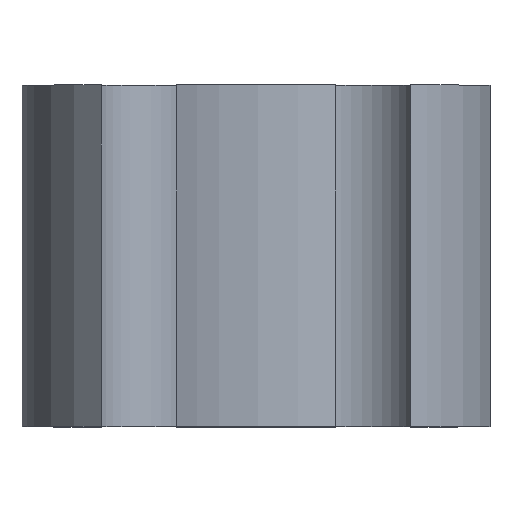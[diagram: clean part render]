
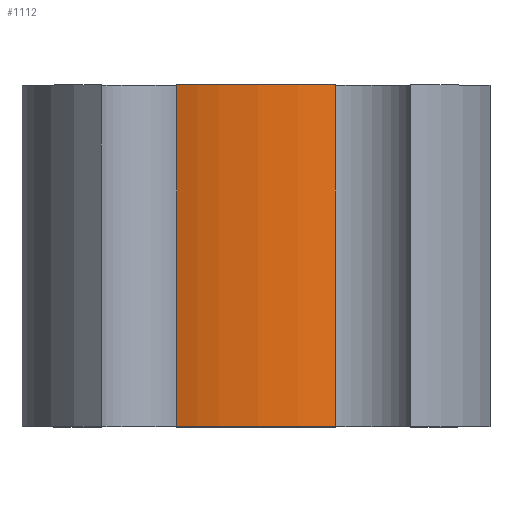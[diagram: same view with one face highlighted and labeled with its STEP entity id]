
A CAD part, top view. The second image highlights one B-rep face of the part: STEP entity #1112.
In plain terms, the highlighted free-form (B-spline) face has degree [2, 1] with [3, 2] control points.
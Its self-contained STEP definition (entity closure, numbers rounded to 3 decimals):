
#46 = B_SPLINE_SURFACE_WITH_KNOTS('',1,1,(
    (#47,#48)
    ,(#49,#50
    )),.UNSPECIFIED.,.F.,.F.,.F.,(2,2),(2,2),(-34.8,34.8),(-34.212,
    34.212),.PIECEWISE_BEZIER_KNOTS.);
#47 = CARTESIAN_POINT('',(-34.802,-25.4,35.4));
#48 = CARTESIAN_POINT('',(34.802,-25.4,35.4));
#49 = CARTESIAN_POINT('',(-34.802,-25.4,-35.4));
#50 = CARTESIAN_POINT('',(34.802,-25.4,-35.4));
#107 = B_SPLINE_SURFACE_WITH_KNOTS('',1,1,(
    (#108,#109)
    ,(#110,#111
    )),.UNSPECIFIED.,.F.,.F.,.F.,(2,2),(2,2),(-34.8,34.8),(-34.212,
    34.212),.PIECEWISE_BEZIER_KNOTS.);
#108 = CARTESIAN_POINT('',(-34.802,25.4,35.4));
#109 = CARTESIAN_POINT('',(34.802,25.4,35.4));
#110 = CARTESIAN_POINT('',(-34.802,25.4,-35.4));
#111 = CARTESIAN_POINT('',(34.802,25.4,-35.4));
#214 = VERTEX_POINT('',#215);
#215 = CARTESIAN_POINT('',(11.789,-25.4,33.379));
#233 = ( BOUNDED_SURFACE() B_SPLINE_SURFACE(2,1,(
    (#234,#235)
    ,(#236,#237)
    ,(#238,#239)
    ,(#240,#241)
,(#242,#243
    )),.UNSPECIFIED.,.F.,.F.,.F.) B_SPLINE_SURFACE_WITH_KNOTS((3,2,3),(2
    ,2),(-0.442,2.094,4.631),(-20.,20.),
.UNSPECIFIED.) GEOMETRIC_REPRESENTATION_ITEM() RATIONAL_B_SPLINE_SURFACE
((
    (1.,1.)
    ,(0.298,0.298)
    ,(1.,1.)
    ,(0.298,0.298)
,(1.,1.))) REPRESENTATION_ITEM('') SURFACE() );
#234 = CARTESIAN_POINT('',(23.013,-25.4,26.899));
#235 = CARTESIAN_POINT('',(23.013,25.4,26.899));
#236 = CARTESIAN_POINT('',(38.635,-25.4,-6.096));
#237 = CARTESIAN_POINT('',(38.635,25.4,-6.096));
#238 = CARTESIAN_POINT('',(7.019,-25.4,12.157));
#239 = CARTESIAN_POINT('',(7.019,25.4,12.157));
#240 = CARTESIAN_POINT('',(-24.597,-25.4,30.411));
#241 = CARTESIAN_POINT('',(-24.597,25.4,30.411));
#242 = CARTESIAN_POINT('',(11.789,-25.4,33.379));
#243 = CARTESIAN_POINT('',(11.789,25.4,33.379));
#253 = EDGE_CURVE('',#214,#254,#256,.T.);
#254 = VERTEX_POINT('',#255);
#255 = CARTESIAN_POINT('',(-11.789,-25.4,33.379));
#256 = SURFACE_CURVE('',#257,(#261,#268),.PCURVE_S1.);
#257 = ( BOUNDED_CURVE() B_SPLINE_CURVE(2,(#258,#259,#260),
.UNSPECIFIED.,.F.,.F.) B_SPLINE_CURVE_WITH_KNOTS((3,3),(1.231,
1.91),.PIECEWISE_BEZIER_KNOTS.) CURVE() 
GEOMETRIC_REPRESENTATION_ITEM() RATIONAL_B_SPLINE_CURVE((1.,
0.943,1.)) REPRESENTATION_ITEM('') );
#258 = CARTESIAN_POINT('',(11.789,-25.4,33.379));
#259 = CARTESIAN_POINT('',(0.,-25.4,37.543));
#260 = CARTESIAN_POINT('',(-11.789,-25.4,33.379));
#261 = PCURVE('',#46,#262);
#262 = DEFINITIONAL_REPRESENTATION('',(#263),#267);
#263 = ( BOUNDED_CURVE() B_SPLINE_CURVE(2,(#264,#265,#266),
.UNSPECIFIED.,.F.,.F.) B_SPLINE_CURVE_WITH_KNOTS((3,3),(1.231,
1.91),.PIECEWISE_BEZIER_KNOTS.) CURVE() 
GEOMETRIC_REPRESENTATION_ITEM() RATIONAL_B_SPLINE_CURVE((1.,
0.943,1.)) REPRESENTATION_ITEM('') );
#264 = CARTESIAN_POINT('',(-32.814,11.589));
#265 = CARTESIAN_POINT('',(-36.907,0.));
#266 = CARTESIAN_POINT('',(-32.814,-11.589));
#267 = ( GEOMETRIC_REPRESENTATION_CONTEXT(2) 
PARAMETRIC_REPRESENTATION_CONTEXT() REPRESENTATION_CONTEXT('2D SPACE',''
  ) );
#268 = PCURVE('',#269,#276);
#269 = ( BOUNDED_SURFACE() B_SPLINE_SURFACE(2,1,(
    (#270,#271)
    ,(#272,#273)
,(#274,#275
    )),.UNSPECIFIED.,.F.,.F.,.F.) B_SPLINE_SURFACE_WITH_KNOTS((3,3),(2,2
    ),(4.373,5.052),(-20.,20.),
.PIECEWISE_BEZIER_KNOTS.) GEOMETRIC_REPRESENTATION_ITEM() 
RATIONAL_B_SPLINE_SURFACE((
    (1.,1.)
    ,(0.943,0.943)
,(1.,1.))) REPRESENTATION_ITEM('') SURFACE() );
#270 = CARTESIAN_POINT('',(-11.789,-25.4,33.379));
#271 = CARTESIAN_POINT('',(-11.789,25.4,33.379));
#272 = CARTESIAN_POINT('',(0.,-25.4,37.543));
#273 = CARTESIAN_POINT('',(0.,25.4,37.543));
#274 = CARTESIAN_POINT('',(11.789,-25.4,33.379));
#275 = CARTESIAN_POINT('',(11.789,25.4,33.379));
#276 = DEFINITIONAL_REPRESENTATION('',(#277),#281);
#277 = B_SPLINE_CURVE_WITH_KNOTS('',2,(#278,#279,#280),.UNSPECIFIED.,.F.
  ,.F.,(3,3),(1.231,1.91),.PIECEWISE_BEZIER_KNOTS.);
#278 = CARTESIAN_POINT('',(5.052,-20.));
#279 = CARTESIAN_POINT('',(4.712,-20.));
#280 = CARTESIAN_POINT('',(4.373,-20.));
#281 = ( GEOMETRIC_REPRESENTATION_CONTEXT(2) 
PARAMETRIC_REPRESENTATION_CONTEXT() REPRESENTATION_CONTEXT('2D SPACE',''
  ) );
#303 = ( BOUNDED_SURFACE() B_SPLINE_SURFACE(2,1,(
    (#304,#305)
    ,(#306,#307)
    ,(#308,#309)
    ,(#310,#311)
,(#312,#313
    )),.UNSPECIFIED.,.F.,.F.,.F.) B_SPLINE_SURFACE_WITH_KNOTS((3,2,3),(2
    ,2),(-1.489,1.047,3.584),(-20.,20.),
.UNSPECIFIED.) GEOMETRIC_REPRESENTATION_ITEM() RATIONAL_B_SPLINE_SURFACE
((
    (1.,1.)
    ,(0.298,0.298)
    ,(1.,1.)
    ,(0.298,0.298)
,(1.,1.))) REPRESENTATION_ITEM('') SURFACE() );
#304 = CARTESIAN_POINT('',(-11.789,-25.4,33.379));
#305 = CARTESIAN_POINT('',(-11.789,25.4,33.379));
#306 = CARTESIAN_POINT('',(24.597,-25.4,30.411));
#307 = CARTESIAN_POINT('',(24.597,25.4,30.411));
#308 = CARTESIAN_POINT('',(-7.019,-25.4,12.157));
#309 = CARTESIAN_POINT('',(-7.019,25.4,12.157));
#310 = CARTESIAN_POINT('',(-38.635,-25.4,-6.096));
#311 = CARTESIAN_POINT('',(-38.635,25.4,-6.096));
#312 = CARTESIAN_POINT('',(-23.013,-25.4,26.899));
#313 = CARTESIAN_POINT('',(-23.013,25.4,26.899));
#690 = VERTEX_POINT('',#691);
#691 = CARTESIAN_POINT('',(11.789,25.4,33.379));
#718 = EDGE_CURVE('',#690,#719,#721,.T.);
#719 = VERTEX_POINT('',#720);
#720 = CARTESIAN_POINT('',(-11.789,25.4,33.379));
#721 = SURFACE_CURVE('',#722,(#726,#733),.PCURVE_S1.);
#722 = ( BOUNDED_CURVE() B_SPLINE_CURVE(2,(#723,#724,#725),
.UNSPECIFIED.,.F.,.F.) B_SPLINE_CURVE_WITH_KNOTS((3,3),(1.231,
1.91),.PIECEWISE_BEZIER_KNOTS.) CURVE() 
GEOMETRIC_REPRESENTATION_ITEM() RATIONAL_B_SPLINE_CURVE((1.,
0.943,1.)) REPRESENTATION_ITEM('') );
#723 = CARTESIAN_POINT('',(11.789,25.4,33.379));
#724 = CARTESIAN_POINT('',(0.,25.4,37.543));
#725 = CARTESIAN_POINT('',(-11.789,25.4,33.379));
#726 = PCURVE('',#107,#727);
#727 = DEFINITIONAL_REPRESENTATION('',(#728),#732);
#728 = ( BOUNDED_CURVE() B_SPLINE_CURVE(2,(#729,#730,#731),
.UNSPECIFIED.,.F.,.F.) B_SPLINE_CURVE_WITH_KNOTS((3,3),(1.231,
1.91),.PIECEWISE_BEZIER_KNOTS.) CURVE() 
GEOMETRIC_REPRESENTATION_ITEM() RATIONAL_B_SPLINE_CURVE((1.,
0.943,1.)) REPRESENTATION_ITEM('') );
#729 = CARTESIAN_POINT('',(-32.814,11.589));
#730 = CARTESIAN_POINT('',(-36.907,0.));
#731 = CARTESIAN_POINT('',(-32.814,-11.589));
#732 = ( GEOMETRIC_REPRESENTATION_CONTEXT(2) 
PARAMETRIC_REPRESENTATION_CONTEXT() REPRESENTATION_CONTEXT('2D SPACE',''
  ) );
#733 = PCURVE('',#269,#734);
#734 = DEFINITIONAL_REPRESENTATION('',(#735),#739);
#735 = B_SPLINE_CURVE_WITH_KNOTS('',2,(#736,#737,#738),.UNSPECIFIED.,.F.
  ,.F.,(3,3),(1.231,1.91),.PIECEWISE_BEZIER_KNOTS.);
#736 = CARTESIAN_POINT('',(5.052,20.));
#737 = CARTESIAN_POINT('',(4.712,20.));
#738 = CARTESIAN_POINT('',(4.373,20.));
#739 = ( GEOMETRIC_REPRESENTATION_CONTEXT(2) 
PARAMETRIC_REPRESENTATION_CONTEXT() REPRESENTATION_CONTEXT('2D SPACE',''
  ) );
#1064 = EDGE_CURVE('',#214,#690,#1065,.T.);
#1065 = SURFACE_CURVE('',#1066,(#1069,#1076),.PCURVE_S1.);
#1066 = B_SPLINE_CURVE_WITH_KNOTS('',1,(#1067,#1068),.UNSPECIFIED.,.F.,
  .F.,(2,2),(0.,40.),.PIECEWISE_BEZIER_KNOTS.);
#1067 = CARTESIAN_POINT('',(11.789,-25.4,33.379));
#1068 = CARTESIAN_POINT('',(11.789,25.4,33.379));
#1069 = PCURVE('',#233,#1070);
#1070 = DEFINITIONAL_REPRESENTATION('',(#1071),#1075);
#1071 = B_SPLINE_CURVE_WITH_KNOTS('',2,(#1072,#1073,#1074),
  .UNSPECIFIED.,.F.,.F.,(3,3),(0.,40.),.PIECEWISE_BEZIER_KNOTS.);
#1072 = CARTESIAN_POINT('',(4.631,-20.));
#1073 = CARTESIAN_POINT('',(4.631,0.));
#1074 = CARTESIAN_POINT('',(4.631,20.));
#1075 = ( GEOMETRIC_REPRESENTATION_CONTEXT(2) 
PARAMETRIC_REPRESENTATION_CONTEXT() REPRESENTATION_CONTEXT('2D SPACE',''
  ) );
#1076 = PCURVE('',#269,#1077);
#1077 = DEFINITIONAL_REPRESENTATION('',(#1078),#1082);
#1078 = B_SPLINE_CURVE_WITH_KNOTS('',2,(#1079,#1080,#1081),
  .UNSPECIFIED.,.F.,.F.,(3,3),(0.,40.),.PIECEWISE_BEZIER_KNOTS.);
#1079 = CARTESIAN_POINT('',(5.052,-20.));
#1080 = CARTESIAN_POINT('',(5.052,0.));
#1081 = CARTESIAN_POINT('',(5.052,20.));
#1082 = ( GEOMETRIC_REPRESENTATION_CONTEXT(2) 
PARAMETRIC_REPRESENTATION_CONTEXT() REPRESENTATION_CONTEXT('2D SPACE',''
  ) );
#1112 = ADVANCED_FACE('',(#1113),#269,.T.);
#1113 = FACE_BOUND('',#1114,.T.);
#1114 = EDGE_LOOP('',(#1115,#1116,#1117,#1118));
#1115 = ORIENTED_EDGE('',*,*,#253,.F.);
#1116 = ORIENTED_EDGE('',*,*,#1064,.T.);
#1117 = ORIENTED_EDGE('',*,*,#718,.T.);
#1118 = ORIENTED_EDGE('',*,*,#1119,.F.);
#1119 = EDGE_CURVE('',#254,#719,#1120,.T.);
#1120 = SURFACE_CURVE('',#1121,(#1124,#1131),.PCURVE_S1.);
#1121 = B_SPLINE_CURVE_WITH_KNOTS('',1,(#1122,#1123),.UNSPECIFIED.,.F.,
  .F.,(2,2),(0.,40.),.PIECEWISE_BEZIER_KNOTS.);
#1122 = CARTESIAN_POINT('',(-11.789,-25.4,33.379));
#1123 = CARTESIAN_POINT('',(-11.789,25.4,33.379));
#1124 = PCURVE('',#269,#1125);
#1125 = DEFINITIONAL_REPRESENTATION('',(#1126),#1130);
#1126 = B_SPLINE_CURVE_WITH_KNOTS('',2,(#1127,#1128,#1129),
  .UNSPECIFIED.,.F.,.F.,(3,3),(0.,40.),.PIECEWISE_BEZIER_KNOTS.);
#1127 = CARTESIAN_POINT('',(4.373,-20.));
#1128 = CARTESIAN_POINT('',(4.373,0.));
#1129 = CARTESIAN_POINT('',(4.373,20.));
#1130 = ( GEOMETRIC_REPRESENTATION_CONTEXT(2) 
PARAMETRIC_REPRESENTATION_CONTEXT() REPRESENTATION_CONTEXT('2D SPACE',''
  ) );
#1131 = PCURVE('',#303,#1132);
#1132 = DEFINITIONAL_REPRESENTATION('',(#1133),#1137);
#1133 = B_SPLINE_CURVE_WITH_KNOTS('',2,(#1134,#1135,#1136),
  .UNSPECIFIED.,.F.,.F.,(3,3),(0.,40.),.PIECEWISE_BEZIER_KNOTS.);
#1134 = CARTESIAN_POINT('',(-1.489,-20.));
#1135 = CARTESIAN_POINT('',(-1.489,0.));
#1136 = CARTESIAN_POINT('',(-1.489,20.));
#1137 = ( GEOMETRIC_REPRESENTATION_CONTEXT(2) 
PARAMETRIC_REPRESENTATION_CONTEXT() REPRESENTATION_CONTEXT('2D SPACE',''
  ) );
